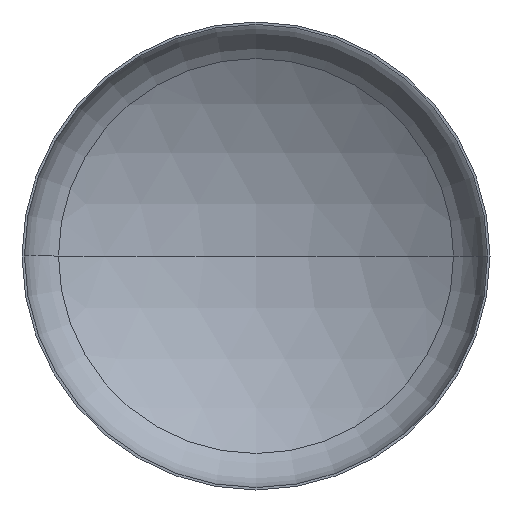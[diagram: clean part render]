
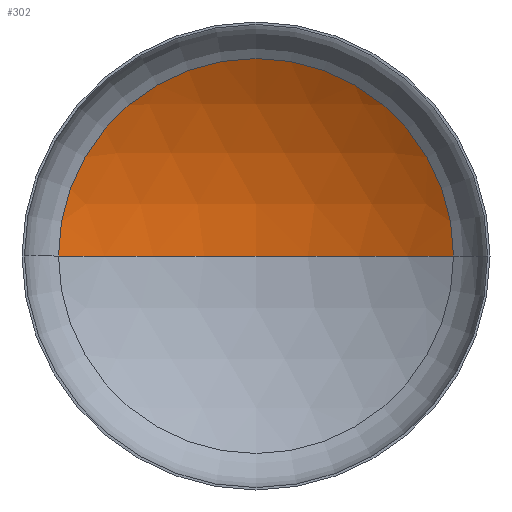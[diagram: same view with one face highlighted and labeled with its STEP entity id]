
A CAD part, front view. The second image highlights one B-rep face of the part: STEP entity #302.
In plain terms, the highlighted spherical face has radius 6000 mm.
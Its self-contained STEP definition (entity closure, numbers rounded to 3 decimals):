
#18 = AXIS2_PLACEMENT_3D ( 'NONE', #378, #362, #69 ) ;
#31 = CARTESIAN_POINT ( 'NONE',  ( 0., 2004.069, 0. ) ) ;
#47 = AXIS2_PLACEMENT_3D ( 'NONE', #171, #164, #163 ) ;
#51 = AXIS2_PLACEMENT_3D ( 'NONE', #255, #254, #252 ) ;
#55 = CARTESIAN_POINT ( 'NONE',  ( 3165.325, 1101.197, 0. ) ) ;
#57 = AXIS2_PLACEMENT_3D ( 'NONE', #251, #249, #132 ) ;
#69 = DIRECTION ( 'NONE',  ( -1., 0., 0. ) ) ;
#106 = CARTESIAN_POINT ( 'NONE',  ( -3165.325, 1101.197, 0. ) ) ;
#110 = EDGE_CURVE ( 'NONE', #290, #329, #332, .T. ) ;
#113 = EDGE_CURVE ( 'NONE', #233, #290, #400, .T. ) ;
#117 = EDGE_CURVE ( 'NONE', #233, #329, #266, .T. ) ;
#132 = DIRECTION ( 'NONE',  ( 1., 0., 0. ) ) ;
#155 = FACE_OUTER_BOUND ( 'NONE', #387, .T. ) ;
#163 = DIRECTION ( 'NONE',  ( 1., 0., 0. ) ) ;
#164 = DIRECTION ( 'NONE',  ( 0., 0., 1. ) ) ;
#166 = SPHERICAL_SURFACE ( 'NONE', #18, 6000. ) ;
#171 = CARTESIAN_POINT ( 'NONE',  ( 0., -3995.931, 0. ) ) ;
#233 = VERTEX_POINT ( 'NONE', #31 ) ;
#249 = DIRECTION ( 'NONE',  ( 0., -1., 0. ) ) ;
#251 = CARTESIAN_POINT ( 'NONE',  ( 0., 1101.197, 0. ) ) ;
#252 = DIRECTION ( 'NONE',  ( -1., 0., 0. ) ) ;
#254 = DIRECTION ( 'NONE',  ( 0., 0., -1. ) ) ;
#255 = CARTESIAN_POINT ( 'NONE',  ( 0., -3995.931, 0. ) ) ;
#266 = CIRCLE ( 'NONE', #47, 6000. ) ;
#290 = VERTEX_POINT ( 'NONE', #55 ) ;
#297 = ORIENTED_EDGE ( 'NONE', *, *, #117, .F. ) ;
#302 = ADVANCED_FACE ( 'NONE', ( #155 ), #166, .F. ) ;
#323 = ORIENTED_EDGE ( 'NONE', *, *, #110, .T. ) ;
#329 = VERTEX_POINT ( 'NONE', #106 ) ;
#332 = CIRCLE ( 'NONE', #57, 3165.325 ) ;
#344 = ORIENTED_EDGE ( 'NONE', *, *, #113, .T. ) ;
#362 = DIRECTION ( 'NONE',  ( 0., 0., -1. ) ) ;
#378 = CARTESIAN_POINT ( 'NONE',  ( 0., -3995.931, 0. ) ) ;
#387 = EDGE_LOOP ( 'NONE', ( #297, #344, #323 ) ) ;
#400 = CIRCLE ( 'NONE', #51, 6000. ) ;
